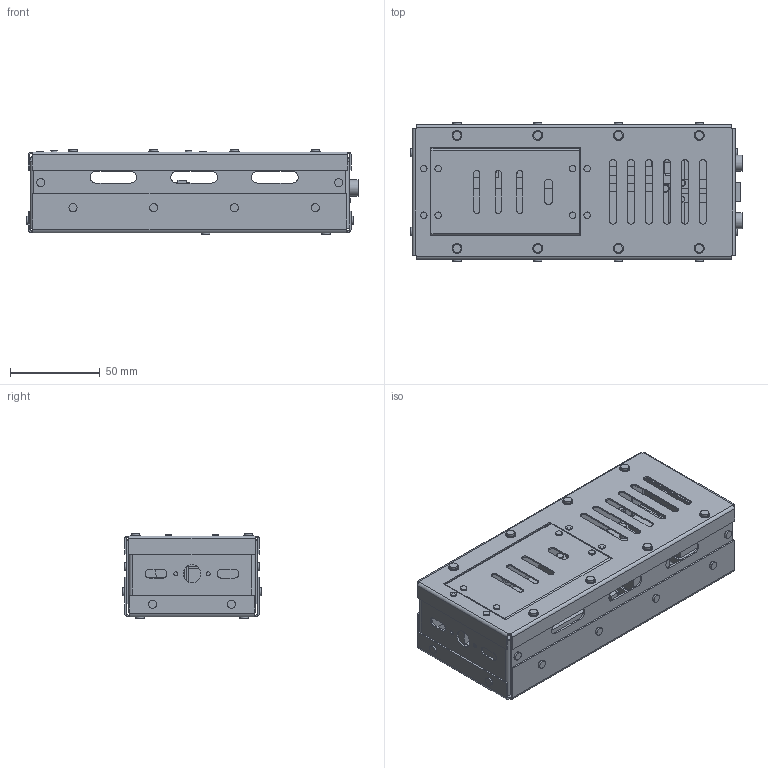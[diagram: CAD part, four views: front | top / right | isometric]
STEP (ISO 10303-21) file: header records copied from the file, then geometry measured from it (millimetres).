
FILE_DESCRIPTION(/* description */ (''),/* implementation_level */ '2;1');
FILE_NAME(/* name */ 'UAV_AVIONICS_BAY.step',/* time_stamp */ '2026-11-24T01:50:35+05:00',/* author */ (''),/* organization */ (''),/* preprocessor_version */ 'ST-DEVELOPER v20.2',/* originating_system */ 'Autodesk Translation Framework v15.17.0.0',/* authorisation */ '');
FILE_SCHEMA (('AUTOMOTIVE_DESIGN { 1 0 10303 214 3 1 1 }'));
Length unit declared in the file: centimetre
Products named in the file (47): 2026-11-24-01-47-07-089; 2026-11-24-01-47-07-310; 2026-11-24-01-47-07-425; 2026-11-24-01-47-08-424; 2026-11-24-01-47-08-869; 2026-11-24-01-47-09-436; 2026-11-24-01-47-10-412; 2026-11-24-01-47-07-319; 2026-11-24-01-47-11-202; 2026-11-24-01-47-12-345; 2026-11-24-01-47-13-053; 2026-11-24-01-47-07-329; 2026-11-24-01-47-13-521; 2026-11-24-01-47-15-030; 2026-11-24-01-47-16-670; 2026-11-24-01-47-17-856; 2026-11-24-01-47-07-338; 2026-11-24-01-47-44-000; 2026-11-24-01-47-45-628; 2026-11-24-01-47-51-115; 2026-11-24-01-47-55-381; 2026-11-24-01-47-07-347; 2026-11-24-01-47-21-761; 2026-11-24-01-47-25-049; 2026-11-24-01-47-28-517; 2026-11-24-01-47-32-102; 2026-11-24-01-47-35-765; 2026-11-24-01-47-39-781; 2026-11-24-01-47-07-356; 2026-11-24-01-47-57-874; 2026-11-24-01-48-02-688; 2026-11-24-01-48-06-796; 2026-11-24-01-48-14-973; 2026-11-24-01-47-07-365; 2026-11-24-01-48-21-879; 2026-11-24-01-48-25-617; 2026-11-24-01-48-30-055; 2026-11-24-01-48-33-468; 2026-11-24-01-47-07-376; 2026-11-24-01-48-36-939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
Assembly tree (192 placements, depth 3):
  2026-11-24-01-47-07-089
    2026-11-24-01-47-07-310
      2026-11-24-01-47-07-425
      2026-11-24-01-47-08-424
      2026-11-24-01-47-08-869
      2026-11-24-01-47-09-436
      2026-11-24-01-47-10-412
    2026-11-24-01-47-07-319
      2026-11-24-01-47-11-202
      2026-11-24-01-47-12-345
      2026-11-24-01-47-13-053  x2
    2026-11-24-01-47-07-329
      2026-11-24-01-47-13-521
      2026-11-24-01-47-15-030  x2
      2026-11-24-01-47-16-670  x4
      2026-11-24-01-47-17-856  x24
    2026-11-24-01-47-07-338
      2026-11-24-01-47-44-000
      2026-11-24-01-47-45-628  x2
      2026-11-24-01-47-51-115
      2026-11-24-01-47-55-381  x2
    2026-11-24-01-47-07-347
      2026-11-24-01-47-21-761
      2026-11-24-01-47-25-049
      2026-11-24-01-47-28-517
      2026-11-24-01-47-32-102
      2026-11-24-01-47-35-765
      2026-11-24-01-47-39-781
    2026-11-24-01-47-07-356
      2026-11-24-01-47-57-874
      2026-11-24-01-48-02-688  x2
      2026-11-24-01-48-06-796
      2026-11-24-01-48-14-973
    2026-11-24-01-47-07-365
      2026-11-24-01-48-21-879
      2026-11-24-01-48-25-617  x3
      2026-11-24-01-48-30-055
      2026-11-24-01-48-33-468
    2026-11-24-01-47-07-376
      2026-11-24-01-48-36-939  x32
      2026-11-24-01-48-50-614  x12
      2026-11-24-01-48-57-362  x24
      2026-11-24-01-49-10-191  x24
      2026-11-24-01-49-25-759  x8
      2026-11-24-01-49-32-401  x8
      2026-11-24-01-49-40-041  x9
      2026-11-24-01-49-48-110  x4
Bounding box: 185.05 x 77.4 x 47.9 mm (x, y, z)
Volume: 174487.2 mm3; surface area: 197491.2 mm2
Topology: 184 solids, 184 shells, 1553 faces, 2995 edges, 1902 vertices
Faces by surface type: plane 942, cylinder 609, torus 2
Full cylindrical faces by diameter (mm): 2 x45, 2.1 x32, 2.2 x94, 2.5 x60, 2.6 x4, 2.7 x76, 3.6 x41, 4 x24, 4.5 x44, 5 x28, 5.5 x12, 6.2 x2, 8.8 x2, 9 x4, 10 x1, 12.5 x2
Entity records: 26348 total; most frequent: DIRECTION 4581, CARTESIAN_POINT 4130, ORIENTED_EDGE 3798, EDGE_CURVE 1899, AXIS2_PLACEMENT_3D 1641, LINE 1299, VECTOR 1299, EDGE_LOOP 1201
